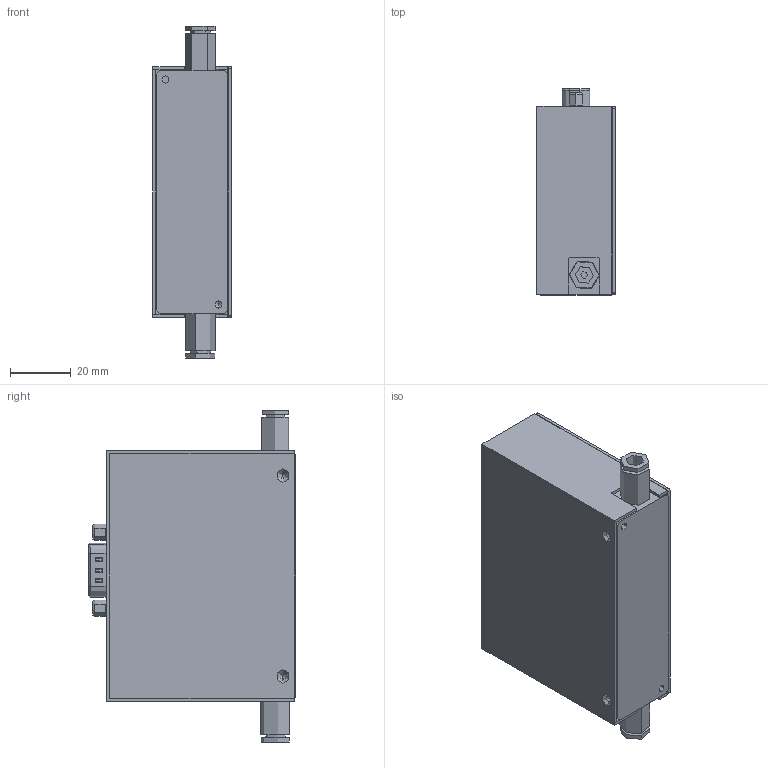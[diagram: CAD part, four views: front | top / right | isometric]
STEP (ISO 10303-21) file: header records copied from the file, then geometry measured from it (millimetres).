
FILE_DESCRIPTION (( 'STEP AP203' ), '1' );
FILE_NAME ('ASM_PX_inside_client_quickfit 6mm_140119.STEP', '2019-02-11T17:44:11', ( '' ), ( '' ), 'SwSTEP 2.0', 'SolidWorks 2018', '' );
FILE_SCHEMA (( 'CONFIG_CONTROL_DESIGN' ));
Length unit declared in the file: millimetre
Products named in the file (7): Ass_Pos_Inside_client; KQ2S06-M5; p-pro_carte_V001_client; ASM_PX_inside_client_quickfit 6mm_140119; Boitier_Base_P_Pro_V001_client; Boitier_Capot_P_Pro_V001_client; embase_pos_4(V002)_P_Pro_client
Assembly tree (7 placements, depth 3):
  ASM_PX_inside_client_quickfit 6mm_140119
    Boitier_Capot_P_Pro_V001_client
    Ass_Pos_Inside_client
      embase_pos_4(V002)_P_Pro_client
      p-pro_carte_V001_client
      KQ2S06-M5  x2
    Boitier_Base_P_Pro_V001_client
Bounding box: 25.7 x 67.82 x 109.2 mm (x, y, z)
Topology: 6 solids, 17 shells, 1811 faces, 4943 edges, 3144 vertices
Faces by surface type: plane 978, cylinder 466, bspline 288, cone 79
Entity records: 84200 total; most frequent: CARTESIAN_POINT 40296, ORIENTED_EDGE 9652, DIRECTION 7737, EDGE_CURVE 4847, VECTOR 3137, LINE 3137, VERTEX_POINT 3108, AXIS2_PLACEMENT_3D 2300
